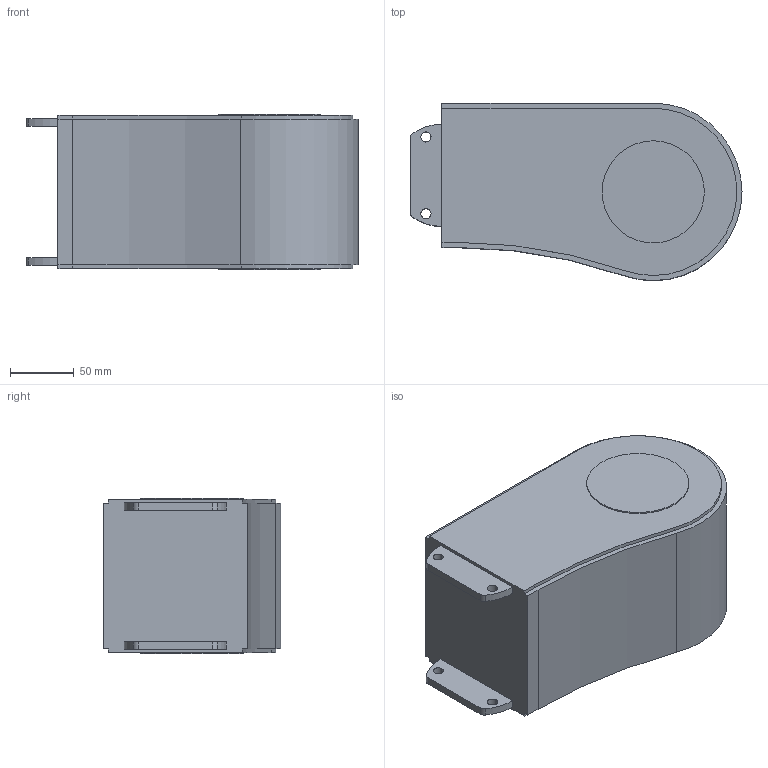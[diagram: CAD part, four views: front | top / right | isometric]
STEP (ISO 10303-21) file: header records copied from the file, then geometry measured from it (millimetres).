
FILE_DESCRIPTION (( 'STEP AP214' ), '1' );
FILE_NAME ('VC.120 Aandrijf & omloopsectie.Z10 omloop.STEP', '2017-02-08T07:42:31', ( '' ), ( '' ), 'SwSTEP 2.0', 'SolidWorks 2016', '' );
FILE_SCHEMA (( 'AUTOMOTIVE_DESIGN' ));
Length unit declared in the file: millimetre
Products named in the file (1): VC.120 Aandrijf & omloopsectie.Z10 omloop
Bounding box: 260 x 138.99 x 122 mm (x, y, z)
Volume: 3356040.7 mm3; surface area: 143903.2 mm2
Topology: 1 solids, 1 shells, 45 faces, 117 edges, 78 vertices
Faces by surface type: cylinder 26, plane 19
Entity records: 1453 total; most frequent: DIRECTION 261, CARTESIAN_POINT 241, ORIENTED_EDGE 234, EDGE_CURVE 117, AXIS2_PLACEMENT_3D 98, VERTEX_POINT 78, VECTOR 65, LINE 65
